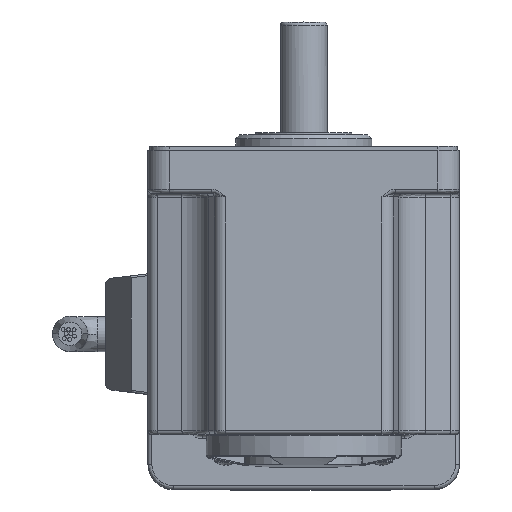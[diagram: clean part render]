
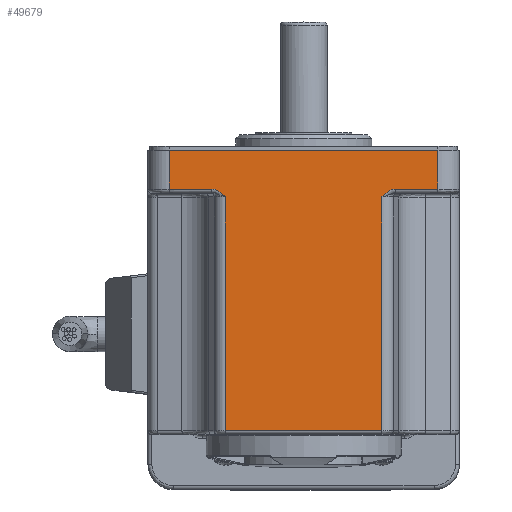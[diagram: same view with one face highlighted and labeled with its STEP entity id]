
A CAD part, top view. The second image highlights one B-rep face of the part: STEP entity #49679.
In plain terms, the highlighted planar face has unit normal (0, 0, 1) as drawn and (0, -1, 0) by its records, which use the part's own axes.
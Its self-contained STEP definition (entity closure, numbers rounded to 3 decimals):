
#1676 = LINE ( 'NONE', #1689, #120167 ) ;
#1685 = LINE ( 'NONE', #1687, #120170 ) ;
#1687 = CARTESIAN_POINT ( 'NONE',  ( 10.499, 1., -41.054 ) ) ;
#1688 = DIRECTION ( 'NONE',  ( -1., 0., 0. ) ) ;
#1689 = CARTESIAN_POINT ( 'NONE',  ( 5.499, 1., -75.554 ) ) ;
#1690 = DIRECTION ( 'NONE',  ( 0., 0., -1. ) ) ;
#1691 = LINE ( 'NONE', #1692, #120171 ) ;
#1692 = CARTESIAN_POINT ( 'NONE',  ( 10.499, 1., -110.054 ) ) ;
#1693 = DIRECTION ( 'NONE',  ( 1., 0., 0. ) ) ;
#22733 = B_SPLINE_CURVE_WITH_KNOTS ( 'NONE', 3,
 ( #120950, #120951, #120956, #120957, #120958, #120959, #120960, #120961, #120962, #120963 ),
 .UNSPECIFIED., .F., .F.,
 ( 4, 2, 2, 2, 4 ),
 ( 0., 0.25, 0.5, 0.75, 1. ),
 .UNSPECIFIED. ) ;
#22746 = B_SPLINE_CURVE_WITH_KNOTS ( 'NONE', 3,
 ( #120980, #120979, #120991, #120992, #120993, #120994, #120995, #120996, #120997, #120998, #120999, #121000 ),
 .UNSPECIFIED., .F., .F.,
 ( 4, 2, 2, 2, 2, 4 ),
 ( 0., 0.25, 0.375, 0.5, 0.75, 1. ),
 .UNSPECIFIED. ) ;
#33378 = VERTEX_POINT ( 'NONE', #110109 ) ;
#33387 = VERTEX_POINT ( 'NONE', #110119 ) ;
#33484 = VERTEX_POINT ( 'NONE', #110222 ) ;
#33491 = VERTEX_POINT ( 'NONE', #110230 ) ;
#33494 = VERTEX_POINT ( 'NONE', #110233 ) ;
#33500 = VERTEX_POINT ( 'NONE', #110239 ) ;
#33503 = VERTEX_POINT ( 'NONE', #110242 ) ;
#33504 = VERTEX_POINT ( 'NONE', #110243 ) ;
#33774 = VERTEX_POINT ( 'NONE', #110440 ) ;
#33785 = VERTEX_POINT ( 'NONE', #110462 ) ;
#49679 = ADVANCED_FACE ( 'NONE', ( #115715 ), #115716, .F. ) ;
#50372 = EDGE_CURVE ( 'NONE', #33484, #33378, #120942, .T. ) ;
#50376 = EDGE_CURVE ( 'NONE', #33378, #33491, #22733, .T. ) ;
#50383 = EDGE_CURVE ( 'NONE', #33500, #33504, #120974, .T. ) ;
#50390 = EDGE_CURVE ( 'NONE', #33504, #33387, #22746, .T. ) ;
#50392 = EDGE_CURVE ( 'NONE', #33387, #33494, #121001, .T. ) ;
#50401 = EDGE_CURVE ( 'NONE', #33491, #33503, #121013, .T. ) ;
#50463 = EDGE_CURVE ( 'NONE', #33494, #33484, #121112, .T. ) ;
#61517 = ORIENTED_EDGE ( 'NONE', *, *, #50392, .F. ) ;
#61518 = ORIENTED_EDGE ( 'NONE', *, *, #50390, .F. ) ;
#61519 = ORIENTED_EDGE ( 'NONE', *, *, #50383, .F. ) ;
#61520 = ORIENTED_EDGE ( 'NONE', *, *, #65288, .T. ) ;
#61521 = ORIENTED_EDGE ( 'NONE', *, *, #65290, .T. ) ;
#61522 = ORIENTED_EDGE ( 'NONE', *, *, #65292, .T. ) ;
#61523 = ORIENTED_EDGE ( 'NONE', *, *, #50401, .F. ) ;
#61524 = ORIENTED_EDGE ( 'NONE', *, *, #50376, .F. ) ;
#61525 = ORIENTED_EDGE ( 'NONE', *, *, #50372, .F. ) ;
#61526 = ORIENTED_EDGE ( 'NONE', *, *, #50463, .F. ) ;
#64317 = EDGE_LOOP ( 'NONE', ( #61517, #61518, #61519, #61520, #61521, #61522, #61523, #61524, #61525, #61526 ) ) ;
#65288 = EDGE_CURVE ( 'NONE', #33500, #33774, #1685, .T. ) ;
#65290 = EDGE_CURVE ( 'NONE', #33774, #33785, #1676, .T. ) ;
#65292 = EDGE_CURVE ( 'NONE', #33785, #33503, #1691, .T. ) ;
#89783 = AXIS2_PLACEMENT_3D ( 'NONE', #115711, #115718, #115719 ) ;
#110109 = CARTESIAN_POINT ( 'NONE',  ( 17.499, 1., -95.65 ) ) ;
#110119 = CARTESIAN_POINT ( 'NONE',  ( 17.499, 1., -55.458 ) ) ;
#110222 = CARTESIAN_POINT ( 'NONE',  ( 77.499, 1., -95.65 ) ) ;
#110230 = CARTESIAN_POINT ( 'NONE',  ( 15.499, 1., -99.115 ) ) ;
#110233 = CARTESIAN_POINT ( 'NONE',  ( 77.499, 1., -55.458 ) ) ;
#110239 = CARTESIAN_POINT ( 'NONE',  ( 15.499, 1., -41.054 ) ) ;
#110242 = CARTESIAN_POINT ( 'NONE',  ( 15.499, 1., -110.054 ) ) ;
#110243 = CARTESIAN_POINT ( 'NONE',  ( 15.499, 1., -51.993 ) ) ;
#110440 = CARTESIAN_POINT ( 'NONE',  ( 5.499, 1., -41.054 ) ) ;
#110462 = CARTESIAN_POINT ( 'NONE',  ( 5.499, 1., -110.054 ) ) ;
#115711 = CARTESIAN_POINT ( 'NONE',  ( 78.939, 1., -39.674 ) ) ;
#115715 = FACE_OUTER_BOUND ( 'NONE', #64317, .T. ) ;
#115716 = PLANE ( 'NONE',  #89783 ) ;
#115718 = DIRECTION ( 'NONE',  ( 0., 1., 0. ) ) ;
#115719 = DIRECTION ( 'NONE',  ( 0., 0., -1. ) ) ;
#119939 = VECTOR ( 'NONE', #120949, 1000. ) ;
#119943 = VECTOR ( 'NONE', #120978, 1000. ) ;
#119950 = VECTOR ( 'NONE', #121003, 1000. ) ;
#119955 = VECTOR ( 'NONE', #121015, 1000. ) ;
#119989 = VECTOR ( 'NONE', #121116, 1000. ) ;
#120167 = VECTOR ( 'NONE', #1690, 1000. ) ;
#120170 = VECTOR ( 'NONE', #1688, 1000. ) ;
#120171 = VECTOR ( 'NONE', #1693, 1000. ) ;
#120942 = LINE ( 'NONE', #120948, #119939 ) ;
#120948 = CARTESIAN_POINT ( 'NONE',  ( 41.499, 1., -95.65 ) ) ;
#120949 = DIRECTION ( 'NONE',  ( -1., 0., 0. ) ) ;
#120950 = CARTESIAN_POINT ( 'NONE',  ( 17.499, 1., -95.65 ) ) ;
#120951 = CARTESIAN_POINT ( 'NONE',  ( 17.254, 1., -95.89 ) ) ;
#120956 = CARTESIAN_POINT ( 'NONE',  ( 17.015, 1., -96.135 ) ) ;
#120957 = CARTESIAN_POINT ( 'NONE',  ( 16.555, 1., -96.643 ) ) ;
#120958 = CARTESIAN_POINT ( 'NONE',  ( 16.337, 1., -96.909 ) ) ;
#120959 = CARTESIAN_POINT ( 'NONE',  ( 15.956, 1., -97.479 ) ) ;
#120960 = CARTESIAN_POINT ( 'NONE',  ( 15.795, 1., -97.784 ) ) ;
#120961 = CARTESIAN_POINT ( 'NONE',  ( 15.565, 1., -98.431 ) ) ;
#120962 = CARTESIAN_POINT ( 'NONE',  ( 15.499, 1., -98.772 ) ) ;
#120963 = CARTESIAN_POINT ( 'NONE',  ( 15.499, 1., -99.115 ) ) ;
#120964 = CARTESIAN_POINT ( 'NONE',  ( 15.499, 1., -75.554 ) ) ;
#120974 = LINE ( 'NONE', #120964, #119943 ) ;
#120978 = DIRECTION ( 'NONE',  ( 0., 0., -1. ) ) ;
#120979 = CARTESIAN_POINT ( 'NONE',  ( 15.488, 1., -52.342 ) ) ;
#120980 = CARTESIAN_POINT ( 'NONE',  ( 15.499, 1., -51.993 ) ) ;
#120991 = CARTESIAN_POINT ( 'NONE',  ( 15.565, 1., -52.677 ) ) ;
#120992 = CARTESIAN_POINT ( 'NONE',  ( 15.743, 1., -53.161 ) ) ;
#120993 = CARTESIAN_POINT ( 'NONE',  ( 15.812, 1., -53.318 ) ) ;
#120994 = CARTESIAN_POINT ( 'NONE',  ( 15.965, 1., -53.624 ) ) ;
#120995 = CARTESIAN_POINT ( 'NONE',  ( 16.051, 1., -53.773 ) ) ;
#120996 = CARTESIAN_POINT ( 'NONE',  ( 16.333, 1., -54.204 ) ) ;
#120997 = CARTESIAN_POINT ( 'NONE',  ( 16.556, 1., -54.466 ) ) ;
#120998 = CARTESIAN_POINT ( 'NONE',  ( 17.016, 1., -54.97 ) ) ;
#120999 = CARTESIAN_POINT ( 'NONE',  ( 17.254, 1., -55.215 ) ) ;
#121000 = CARTESIAN_POINT ( 'NONE',  ( 17.499, 1., -55.458 ) ) ;
#121001 = LINE ( 'NONE', #121002, #119950 ) ;
#121002 = CARTESIAN_POINT ( 'NONE',  ( 41.499, 1., -55.458 ) ) ;
#121003 = DIRECTION ( 'NONE',  ( 1., 0., 0. ) ) ;
#121013 = LINE ( 'NONE', #121014, #119955 ) ;
#121014 = CARTESIAN_POINT ( 'NONE',  ( 15.499, 1., -75.554 ) ) ;
#121015 = DIRECTION ( 'NONE',  ( 0., 0., -1. ) ) ;
#121108 = CARTESIAN_POINT ( 'NONE',  ( 77.499, 1., -75.554 ) ) ;
#121112 = LINE ( 'NONE', #121108, #119989 ) ;
#121116 = DIRECTION ( 'NONE',  ( 0., 0., -1. ) ) ;
